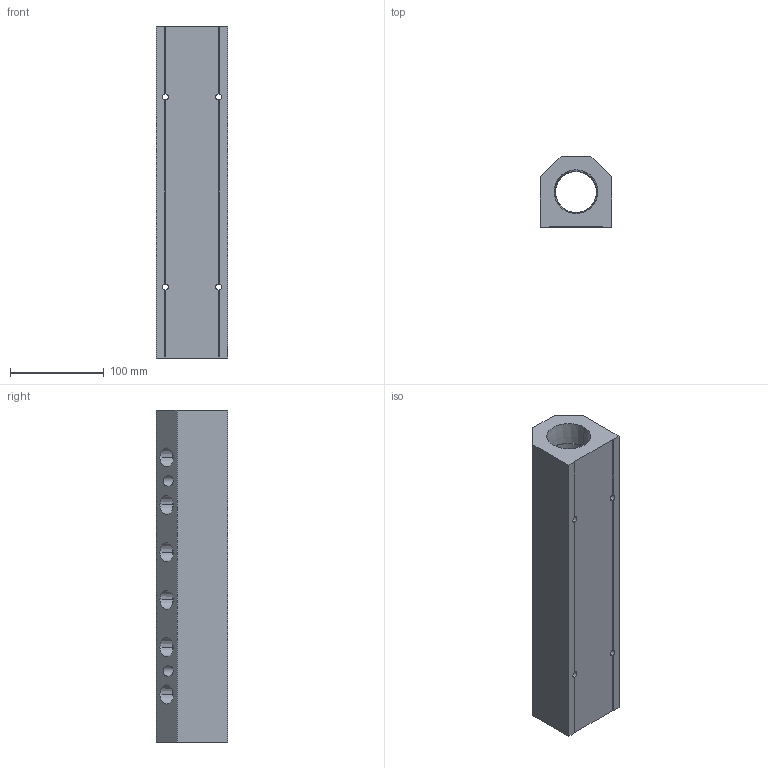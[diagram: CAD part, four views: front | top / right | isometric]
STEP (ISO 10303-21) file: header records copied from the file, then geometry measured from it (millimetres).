
FILE_DESCRIPTION (( 'STEP AP214' ), '1' );
FILE_NAME ('ALM6BD-N8N24-355B.step', '2022-02-07T09:29:21', ( '' ), ( '' ), 'SwSTEP 2.0', 'SolidWorks 2020', '' );
FILE_SCHEMA (( 'AUTOMOTIVE_DESIGN' ));
Length unit declared in the file: millimetre
Products named in the file (1): ALM6BD-N8N24-355B
Bounding box: 76.2 x 76.2 x 355 mm (x, y, z)
Volume: 1256920.6 mm3; surface area: 166674 mm2
Topology: 1 solids, 1 shells, 339 faces, 898 edges, 596 vertices
Faces by surface type: plane 204, bspline 89, cone 28, cylinder 18
Entity records: 19974 total; most frequent: CARTESIAN_POINT 8929, ORIENTED_EDGE 1796, DIRECTION 1242, EDGE_CURVE 898, LINE 620, VECTOR 620, VERTEX_POINT 596, EDGE_LOOP 408
